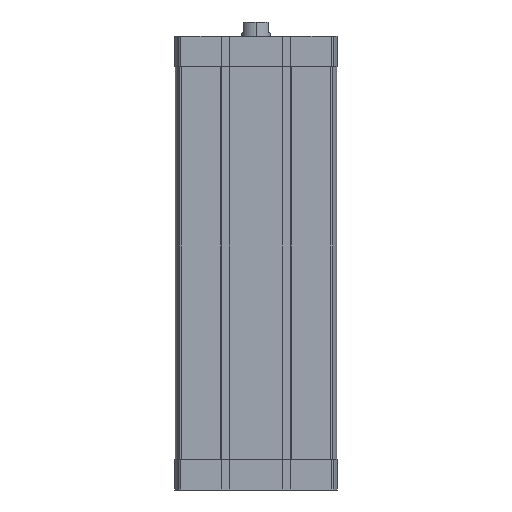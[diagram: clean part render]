
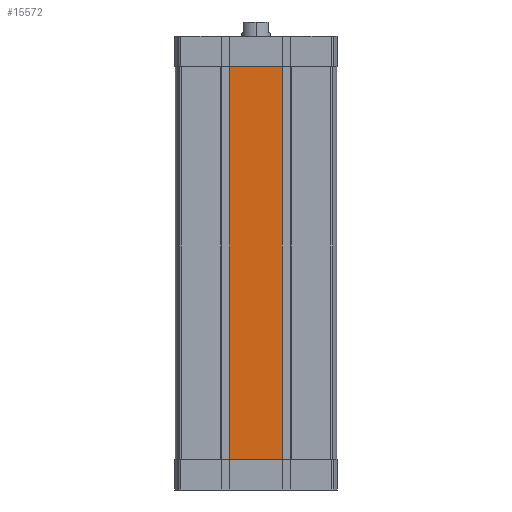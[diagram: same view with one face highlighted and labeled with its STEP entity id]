
A CAD part, left-side view. The second image highlights one B-rep face of the part: STEP entity #15572.
In plain terms, the highlighted planar face has unit normal (-1, 0, 0).
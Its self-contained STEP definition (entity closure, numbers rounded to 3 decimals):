
#943 = VERTEX_POINT ( 'NONE', #18491 ) ;
#1339 = ORIENTED_EDGE ( 'NONE', *, *, #8481, .F. ) ;
#1892 = CARTESIAN_POINT ( 'NONE',  ( -56.5, 18.345, -295.5 ) ) ;
#1986 = DIRECTION ( 'NONE',  ( 0., 0., 1. ) ) ;
#2560 = LINE ( 'NONE', #8826, #5401 ) ;
#3731 = PLANE ( 'NONE',  #7373 ) ;
#4746 = VECTOR ( 'NONE', #14147, 1000. ) ;
#5074 = CARTESIAN_POINT ( 'NONE',  ( -56.5, -18.345, -295.5 ) ) ;
#5189 = CARTESIAN_POINT ( 'NONE',  ( -56.5, 18.345, -295.5 ) ) ;
#5401 = VECTOR ( 'NONE', #15105, 1000. ) ;
#6752 = CARTESIAN_POINT ( 'NONE',  ( -56.5, 18.345, -21.5 ) ) ;
#6826 = DIRECTION ( 'NONE',  ( 0., 0., 1. ) ) ;
#6949 = ORIENTED_EDGE ( 'NONE', *, *, #11685, .T. ) ;
#7373 = AXIS2_PLACEMENT_3D ( 'NONE', #1892, #16084, #1986 ) ;
#8377 = EDGE_CURVE ( 'NONE', #10223, #19826, #2560, .T. ) ;
#8481 = EDGE_CURVE ( 'NONE', #10223, #8560, #12404, .T. ) ;
#8560 = VERTEX_POINT ( 'NONE', #6752 ) ;
#8826 = CARTESIAN_POINT ( 'NONE',  ( -56.5, 18.345, -295.5 ) ) ;
#8843 = VECTOR ( 'NONE', #6826, 1000. ) ;
#9222 = CARTESIAN_POINT ( 'NONE',  ( -56.5, -18.345, -295.5 ) ) ;
#10002 = LINE ( 'NONE', #5074, #8843 ) ;
#10223 = VERTEX_POINT ( 'NONE', #5189 ) ;
#11446 = FACE_OUTER_BOUND ( 'NONE', #16113, .T. ) ;
#11685 = EDGE_CURVE ( 'NONE', #19826, #943, #10002, .T. ) ;
#12404 = LINE ( 'NONE', #15907, #4746 ) ;
#12804 = DIRECTION ( 'NONE',  ( 0., -1., 0. ) ) ;
#13338 = ORIENTED_EDGE ( 'NONE', *, *, #16794, .F. ) ;
#14147 = DIRECTION ( 'NONE',  ( 0., 0., 1. ) ) ;
#14829 = ORIENTED_EDGE ( 'NONE', *, *, #8377, .T. ) ;
#15105 = DIRECTION ( 'NONE',  ( 0., -1., 0. ) ) ;
#15572 = ADVANCED_FACE ( 'NONE', ( #11446 ), #3731, .T. ) ;
#15806 = LINE ( 'NONE', #17452, #20237 ) ;
#15907 = CARTESIAN_POINT ( 'NONE',  ( -56.5, 18.345, -295.5 ) ) ;
#16084 = DIRECTION ( 'NONE',  ( -1., 0., 0. ) ) ;
#16113 = EDGE_LOOP ( 'NONE', ( #13338, #1339, #14829, #6949 ) ) ;
#16794 = EDGE_CURVE ( 'NONE', #8560, #943, #15806, .T. ) ;
#17452 = CARTESIAN_POINT ( 'NONE',  ( -56.5, 18.345, -21.5 ) ) ;
#18491 = CARTESIAN_POINT ( 'NONE',  ( -56.5, -18.345, -21.5 ) ) ;
#19826 = VERTEX_POINT ( 'NONE', #9222 ) ;
#20237 = VECTOR ( 'NONE', #12804, 1000. ) ;
